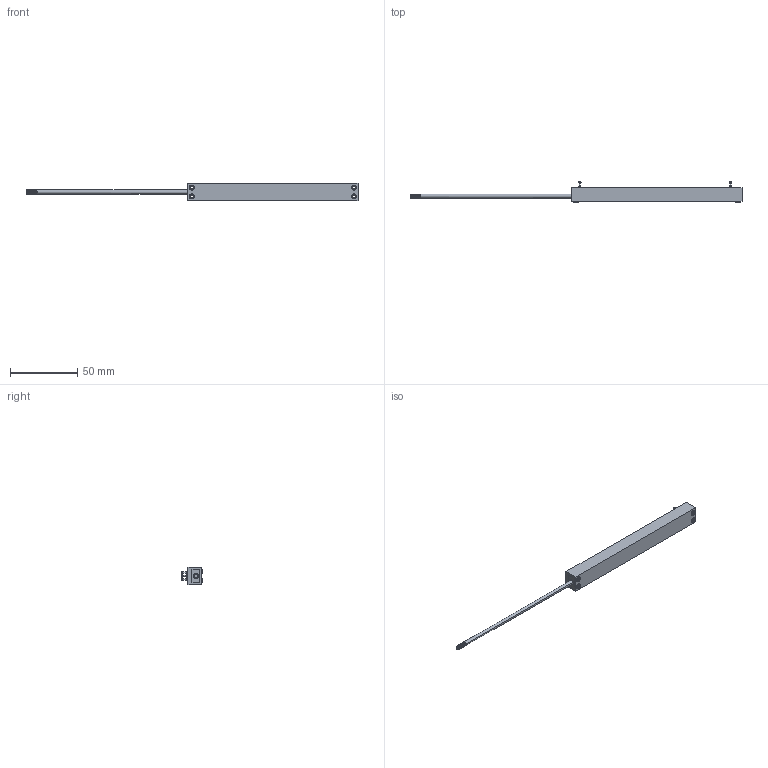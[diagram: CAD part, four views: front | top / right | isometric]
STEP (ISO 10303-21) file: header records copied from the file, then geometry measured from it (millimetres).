
FILE_DESCRIPTION (( 'STEP AP214' ), '1' );
FILE_NAME ('CLP13_100.STEP', '2016-11-28T12:59:18', ( '' ), ( '' ), 'SwSTEP 2.0', 'SolidWorks 2016', '' );
FILE_SCHEMA (( 'AUTOMOTIVE_DESIGN' ));
Length unit declared in the file: millimetre
Products named in the file (6): Taster_CLP13_100_M2; Lager_CLP13; Lötstifte_hoch_CLP13; Hohlniet_CLP13; Geheuse_CLP13-100; CLP13_100
Assembly tree (10 placements, depth 2):
  CLP13_100
    Geheuse_CLP13-100
    Hohlniet_CLP13  x4
    Lötstifte_hoch_CLP13  x3
    Lager_CLP13
    Taster_CLP13_100_M2
Bounding box: 247.6 x 15 x 13 mm (x, y, z)
Volume: 16061.4 mm3; surface area: 9838.6 mm2
Topology: 10 solids, 10 shells, 424 faces, 1047 edges, 688 vertices
Faces by surface type: plane 196, cylinder 94, bspline 92, cone 42
Entity records: 19101 total; most frequent: CARTESIAN_POINT 10403, ORIENTED_EDGE 1814, DIRECTION 1291, EDGE_CURVE 907, VERTEX_POINT 600, LINE 561, VECTOR 561, EDGE_LOOP 399
